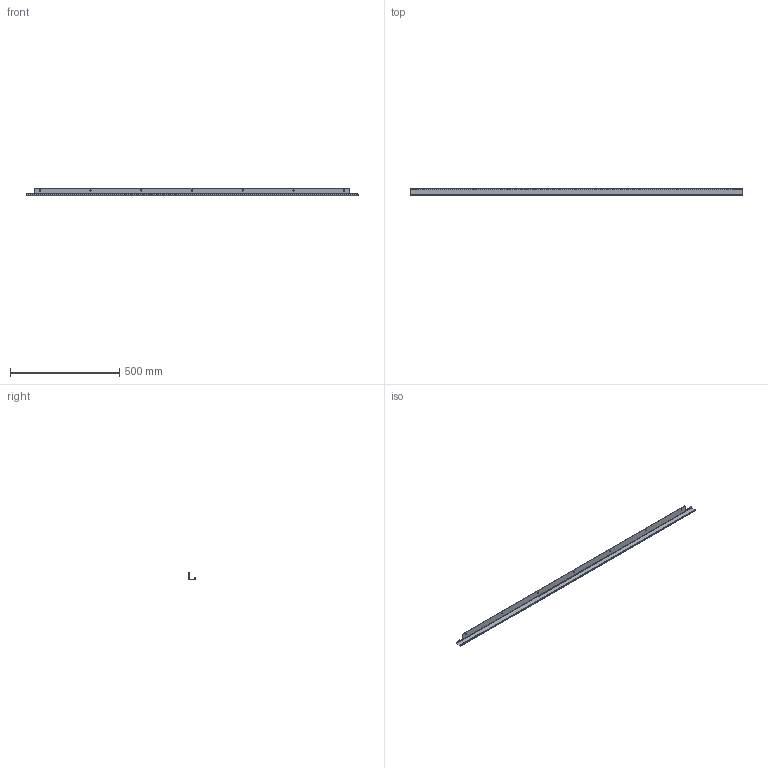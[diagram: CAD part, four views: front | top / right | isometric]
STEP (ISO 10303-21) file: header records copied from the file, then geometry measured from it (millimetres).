
FILE_DESCRIPTION (( 'STEP AP203' ), '1' );
FILE_NAME ('adk60hh.STEP', '2014-01-08T21:43:15', ( 'User' ), ( 'Pentair Inc' ), 'SwSTEP 2.0', 'SolidWorks 2010', '' );
FILE_SCHEMA (( 'CONFIG_CONTROL_DESIGN' ));
Length unit declared in the file: inch
Products named in the file (2): adk60hh; 89100645
Assembly tree (1 placements, depth 2):
  adk60hh
    89100645
Bounding box: 1520.83 x 31.1 x 32.62 mm (x, y, z)
Volume: 179419.4 mm3; surface area: 202236.6 mm2
Topology: 1 solids, 1 shells, 46 faces, 116 edges, 72 vertices
Faces by surface type: cylinder 24, plane 22
Entity records: 1608 total; most frequent: DIRECTION 264, CARTESIAN_POINT 238, ORIENTED_EDGE 232, EDGE_CURVE 116, AXIS2_PLACEMENT_3D 98, VERTEX_POINT 72, VECTOR 68, LINE 68
